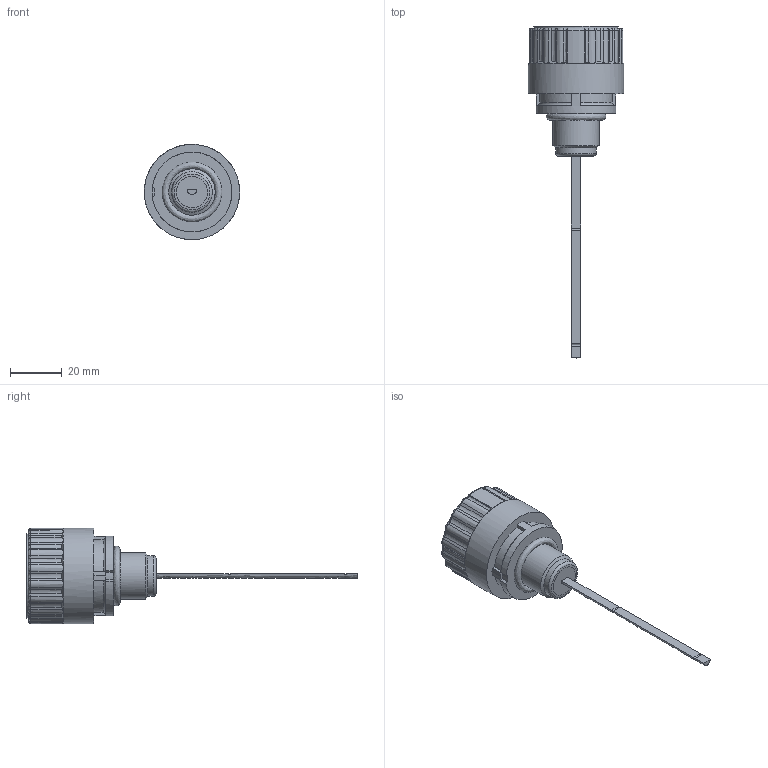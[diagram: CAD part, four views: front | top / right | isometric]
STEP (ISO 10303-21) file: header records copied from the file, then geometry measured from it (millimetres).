
FILE_DESCRIPTION((''),'2;1');
FILE_NAME('U:\Users\r.stiegele\L1_0406-45(12154000).stp', '2014-03-11T07:35:39',('User'),('SDRC'),'I-DEAS Master Series 9','UNIX', 'Yes');
FILE_SCHEMA(('AUTOMOTIVE_DESIGN { 1 0 10303 214 1 1 1 1 }'));
Length unit declared in the file: millimetre
Products named in the file (1): 12154000(334691)
Bounding box: 36.99 x 128.9 x 36.99 mm (x, y, z)
Volume: 37414.2 mm3; surface area: 7995.1 mm2
Topology: 1 solids, 1 shells, 442 faces, 1184 edges, 759 vertices
Faces by surface type: bspline 442
Entity records: 13684 total; most frequent: CARTESIAN_POINT 6714, ORIENTED_EDGE 2360, EDGE_CURVE 1180, VERTEX_POINT 759, B_SPLINE_CURVE_WITH_KNOTS 577, EDGE_LOOP 461, FACE_OUTER_BOUND 442, ADVANCED_FACE 442
